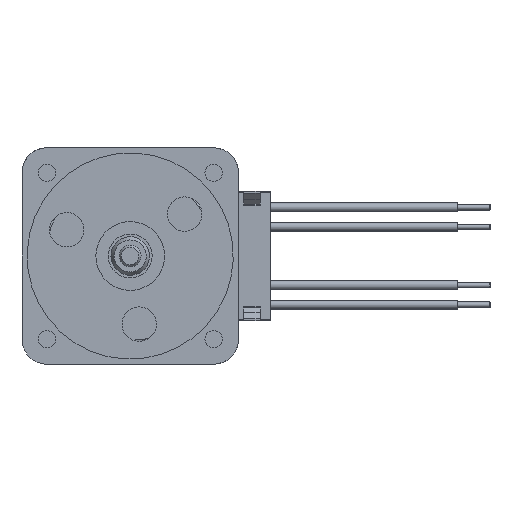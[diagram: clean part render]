
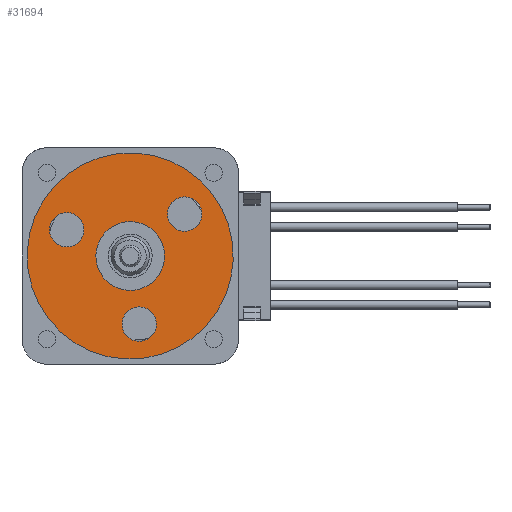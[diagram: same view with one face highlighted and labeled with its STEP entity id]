
A CAD part, left-side view. The second image highlights one B-rep face of the part: STEP entity #31694.
In plain terms, the highlighted planar face has unit normal (-1, 0, 0).
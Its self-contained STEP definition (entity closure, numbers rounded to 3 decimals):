
#31572=CARTESIAN_POINT('',(-9.12,3.637,-8.803));
#31573=VERTEX_POINT('',#31572);
#31580=CARTESIAN_POINT('',(-9.12,0.,0.));
#31581=DIRECTION('',(0.,0.382,-0.924));
#31582=DIRECTION('',(1.,0.,0.));
#31583=AXIS2_PLACEMENT_3D('',#31580,#31582,#31581);
#31584=CIRCLE('',#31583,9.525);
#31585=EDGE_CURVE('',#31573,#31573,#31584,.T.);
#31596=CARTESIAN_POINT('',(-9.12,-4.427,2.401));
#31597=VERTEX_POINT('',#31596);
#31598=CARTESIAN_POINT('',(-9.12,-5.034,3.87));
#31599=DIRECTION('',(0.,0.382,-0.924));
#31600=DIRECTION('',(-1.,0.,0.));
#31601=AXIS2_PLACEMENT_3D('',#31598,#31600,#31599);
#31602=CIRCLE('',#31601,1.59);
#31603=EDGE_CURVE('',#31597,#31597,#31602,.T.);
#31621=CARTESIAN_POINT('',(-9.12,-0.227,-7.764));
#31622=VERTEX_POINT('',#31621);
#31623=CARTESIAN_POINT('',(-9.12,-0.835,-6.295));
#31624=DIRECTION('',(0.,0.382,-0.924));
#31625=DIRECTION('',(-1.,0.,0.));
#31626=AXIS2_PLACEMENT_3D('',#31623,#31625,#31624);
#31627=CIRCLE('',#31626,1.59);
#31628=EDGE_CURVE('',#31622,#31622,#31627,.T.);
#31646=CARTESIAN_POINT('',(-9.12,6.476,0.955));
#31647=VERTEX_POINT('',#31646);
#31648=CARTESIAN_POINT('',(-9.12,5.869,2.425));
#31649=DIRECTION('',(0.,0.382,-0.924));
#31650=DIRECTION('',(-1.,0.,0.));
#31651=AXIS2_PLACEMENT_3D('',#31648,#31650,#31649);
#31652=CIRCLE('',#31651,1.59);
#31653=EDGE_CURVE('',#31647,#31647,#31652,.T.);
#31666=CARTESIAN_POINT('',(-9.12,-0.975,2.359));
#31667=DIRECTION('',(0.,0.382,-0.924));
#31668=DIRECTION('',(-1.,0.,-0.));
#31669=AXIS2_PLACEMENT_3D('',#31666,#31668,#31667);
#31670=PLANE('',#31669);
#31671=ORIENTED_EDGE('',*,*,#31585,.F.);
#31672=EDGE_LOOP('',(#31671));
#31673=FACE_OUTER_BOUND('',#31672,.T.);
#31674=ORIENTED_EDGE('',*,*,#31653,.F.);
#31675=EDGE_LOOP('',(#31674));
#31676=FACE_BOUND('',#31675,.T.);
#31677=ORIENTED_EDGE('',*,*,#31628,.F.);
#31678=EDGE_LOOP('',(#31677));
#31679=FACE_BOUND('',#31678,.T.);
#31680=ORIENTED_EDGE('',*,*,#31603,.F.);
#31681=EDGE_LOOP('',(#31680));
#31682=FACE_BOUND('',#31681,.T.);
#31683=CARTESIAN_POINT('',(-9.12,1.212,-2.934));
#31684=VERTEX_POINT('',#31683);
#31685=CARTESIAN_POINT('',(-9.12,0.,0.));
#31686=DIRECTION('',(0.,0.382,-0.924));
#31687=DIRECTION('',(1.,0.,0.));
#31688=AXIS2_PLACEMENT_3D('',#31685,#31687,#31686);
#31689=CIRCLE('',#31688,3.175);
#31690=EDGE_CURVE('',#31684,#31684,#31689,.T.);
#31691=ORIENTED_EDGE('E2563',*,*,#31690,.T.);
#31692=EDGE_LOOP('',(#31691));
#31693=FACE_BOUND('',#31692,.T.);
#31694=ADVANCED_FACE('F902',(#31673,#31676,#31679,#31682,#31693),#31670,.T.);
